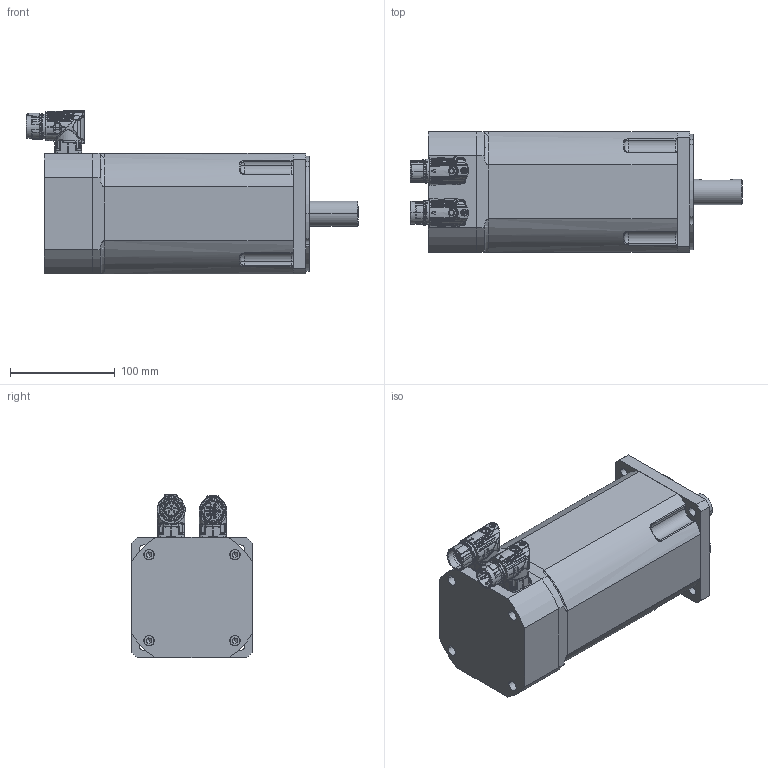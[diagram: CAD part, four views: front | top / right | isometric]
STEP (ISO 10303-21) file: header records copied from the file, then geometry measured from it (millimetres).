
FILE_DESCRIPTION(('CATIA V5 STEP Exchange'),'2;1');
FILE_NAME('C:\Documents and Settings\max\Documenti\sangallimotori\3d step\tg4\motore_DSM5_42_Freno.stp','2010-12-12T18:29:23+00:00',('none'),('none'),'CATIA Version 5 Release 10 (IN-8)','CATIA V5 STEP AP203',' none');
FILE_SCHEMA(('CONFIG_CONTROL_DESIGN'));
Assembly tree (27 placements, depth 0):
Bounding box: 316.81 x 115 x 156.43 mm (x, y, z)
Volume: 2978863.8 mm3; surface area: 239928 mm2
Topology: 23 solids, 28 shells, 4113 faces, 13945 edges, 9848 vertices
Faces by surface type: cylinder 1492, bspline 1326, plane 593, torus 360, cone 233, sphere 109
Entity records: 254620 total; most frequent: CARTESIAN_POINT 164650, ORIENTED_EDGE 25470, EDGE_CURVE 12792, VERTEX_POINT 9198, DIRECTION 8767, B_SPLINE_CURVE_WITH_KNOTS 7914, AXIS2_PLACEMENT_3D 4390, EDGE_LOOP 3819
